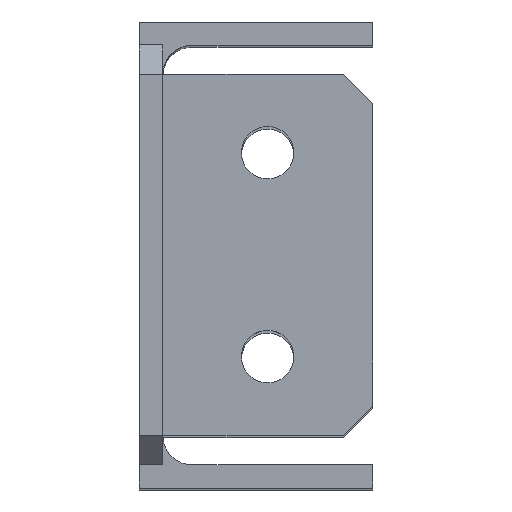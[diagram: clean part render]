
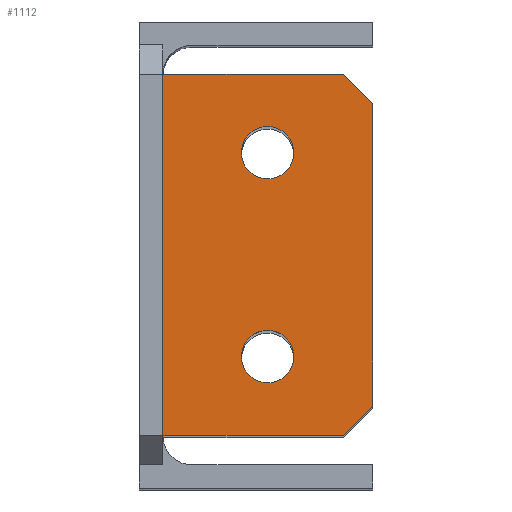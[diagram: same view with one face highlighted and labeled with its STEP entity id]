
A CAD part, top view. The second image highlights one B-rep face of the part: STEP entity #1112.
In plain terms, the highlighted planar face has unit normal (0, 0, 1) as drawn and (1, 0, 0) by its records, which use the part's own axes.
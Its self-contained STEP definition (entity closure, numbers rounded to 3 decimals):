
#3 = DIRECTION ( 'NONE',  ( 0., 0., -1. ) ) ;
#10 = DIRECTION ( 'NONE',  ( 0., 0., 1. ) ) ;
#27 = VERTEX_POINT ( 'NONE', #424 ) ;
#30 = DIRECTION ( 'NONE',  ( 0., -0.707, -0.707 ) ) ;
#47 = CARTESIAN_POINT ( 'NONE',  ( 5., 0., 22. ) ) ;
#54 = FACE_BOUND ( 'NONE', #493, .T. ) ;
#95 = CIRCLE ( 'NONE', #212, 4.5 ) ;
#130 = DIRECTION ( 'NONE',  ( 1., 0., 0. ) ) ;
#136 = CARTESIAN_POINT ( 'NONE',  ( 5., -18., 26. ) ) ;
#137 = EDGE_CURVE ( 'NONE', #889, #182, #654, .T. ) ;
#141 = PLANE ( 'NONE',  #966 ) ;
#146 = DIRECTION ( 'NONE',  ( 0., -1., 0. ) ) ;
#154 = VECTOR ( 'NONE', #770, 1000. ) ;
#167 = VECTOR ( 'NONE', #146, 1000. ) ;
#171 = VERTEX_POINT ( 'NONE', #1036 ) ;
#178 = DIRECTION ( 'NONE',  ( 1., 0., 0. ) ) ;
#182 = VERTEX_POINT ( 'NONE', #1242 ) ;
#195 = DIRECTION ( 'NONE',  ( 0., 0., -1. ) ) ;
#207 = CARTESIAN_POINT ( 'NONE',  ( 5., 0., 13. ) ) ;
#212 = AXIS2_PLACEMENT_3D ( 'NONE', #886, #1081, #195 ) ;
#224 = ORIENTED_EDGE ( 'NONE', *, *, #1139, .T. ) ;
#246 = DIRECTION ( 'NONE',  ( 0., 1., 0. ) ) ;
#258 = VERTEX_POINT ( 'NONE', #667 ) ;
#266 = EDGE_CURVE ( 'NONE', #1038, #171, #95, .T. ) ;
#274 = CIRCLE ( 'NONE', #1060, 4.5 ) ;
#309 = EDGE_CURVE ( 'NONE', #27, #889, #688, .T. ) ;
#318 = DIRECTION ( 'NONE',  ( 0., 0., -1. ) ) ;
#321 = DIRECTION ( 'NONE',  ( 0., 0., -1. ) ) ;
#337 = LINE ( 'NONE', #718, #1198 ) ;
#370 = VERTEX_POINT ( 'NONE', #207 ) ;
#382 = ORIENTED_EDGE ( 'NONE', *, *, #1150, .T. ) ;
#383 = ORIENTED_EDGE ( 'NONE', *, *, #850, .T. ) ;
#389 = ORIENTED_EDGE ( 'NONE', *, *, #798, .F. ) ;
#391 = CARTESIAN_POINT ( 'NONE',  ( 5., -13., -31. ) ) ;
#410 = CARTESIAN_POINT ( 'NONE',  ( 5., 18., 31. ) ) ;
#419 = EDGE_CURVE ( 'NONE', #1173, #370, #497, .T. ) ;
#420 = VECTOR ( 'NONE', #246, 1000. ) ;
#424 = CARTESIAN_POINT ( 'NONE',  ( 5., -18., -26. ) ) ;
#447 = EDGE_LOOP ( 'NONE', ( #224, #567, #797, #824, #382, #383 ) ) ;
#493 = EDGE_LOOP ( 'NONE', ( #389, #581 ) ) ;
#497 = CIRCLE ( 'NONE', #540, 4.5 ) ;
#499 = VECTOR ( 'NONE', #30, 1000. ) ;
#508 = CARTESIAN_POINT ( 'NONE',  ( 5., 18., 31. ) ) ;
#540 = AXIS2_PLACEMENT_3D ( 'NONE', #805, #130, #321 ) ;
#553 = CARTESIAN_POINT ( 'NONE',  ( 5., -18., -31. ) ) ;
#567 = ORIENTED_EDGE ( 'NONE', *, *, #309, .T. ) ;
#581 = ORIENTED_EDGE ( 'NONE', *, *, #419, .F. ) ;
#583 = CARTESIAN_POINT ( 'NONE',  ( 5., 0., -13. ) ) ;
#605 = LINE ( 'NONE', #410, #686 ) ;
#614 = FACE_OUTER_BOUND ( 'NONE', #447, .T. ) ;
#620 = CARTESIAN_POINT ( 'NONE',  ( 5., 0., 17.5 ) ) ;
#625 = DIRECTION ( 'NONE',  ( 0., 0., 1. ) ) ;
#654 = LINE ( 'NONE', #553, #420 ) ;
#667 = CARTESIAN_POINT ( 'NONE',  ( 5., -13., 31. ) ) ;
#686 = VECTOR ( 'NONE', #10, 1000. ) ;
#688 = LINE ( 'NONE', #391, #154 ) ;
#718 = CARTESIAN_POINT ( 'NONE',  ( 5., -18., 31. ) ) ;
#764 = CIRCLE ( 'NONE', #1105, 4.5 ) ;
#769 = EDGE_CURVE ( 'NONE', #171, #1038, #764, .T. ) ;
#770 = DIRECTION ( 'NONE',  ( 0., 0.707, -0.707 ) ) ;
#797 = ORIENTED_EDGE ( 'NONE', *, *, #137, .T. ) ;
#798 = EDGE_CURVE ( 'NONE', #370, #1173, #274, .T. ) ;
#804 = EDGE_CURVE ( 'NONE', #182, #1213, #605, .T. ) ;
#805 = CARTESIAN_POINT ( 'NONE',  ( 5., 0., 17.5 ) ) ;
#807 = EDGE_LOOP ( 'NONE', ( #1166, #1131 ) ) ;
#808 = FACE_BOUND ( 'NONE', #807, .T. ) ;
#824 = ORIENTED_EDGE ( 'NONE', *, *, #804, .T. ) ;
#850 = EDGE_CURVE ( 'NONE', #258, #947, #1189, .T. ) ;
#880 = CARTESIAN_POINT ( 'NONE',  ( 5., 0., -17.5 ) ) ;
#886 = CARTESIAN_POINT ( 'NONE',  ( 5., 0., -17.5 ) ) ;
#889 = VERTEX_POINT ( 'NONE', #913 ) ;
#903 = CARTESIAN_POINT ( 'NONE',  ( 5., -18., 26. ) ) ;
#913 = CARTESIAN_POINT ( 'NONE',  ( 5., -13., -31. ) ) ;
#922 = CARTESIAN_POINT ( 'NONE',  ( 5., -18., 31. ) ) ;
#947 = VERTEX_POINT ( 'NONE', #136 ) ;
#966 = AXIS2_PLACEMENT_3D ( 'NONE', #980, #1005, #625 ) ;
#980 = CARTESIAN_POINT ( 'NONE',  ( 5., 0., 0. ) ) ;
#1005 = DIRECTION ( 'NONE',  ( -1., 0., 0. ) ) ;
#1013 = LINE ( 'NONE', #922, #167 ) ;
#1036 = CARTESIAN_POINT ( 'NONE',  ( 5., 0., -22. ) ) ;
#1038 = VERTEX_POINT ( 'NONE', #583 ) ;
#1060 = AXIS2_PLACEMENT_3D ( 'NONE', #620, #1101, #1210 ) ;
#1081 = DIRECTION ( 'NONE',  ( 1., 0., 0. ) ) ;
#1101 = DIRECTION ( 'NONE',  ( 1., 0., 0. ) ) ;
#1105 = AXIS2_PLACEMENT_3D ( 'NONE', #880, #178, #3 ) ;
#1112 = ADVANCED_FACE ( 'NONE', ( #54, #808, #614 ), #141, .F. ) ;
#1131 = ORIENTED_EDGE ( 'NONE', *, *, #266, .F. ) ;
#1139 = EDGE_CURVE ( 'NONE', #947, #27, #337, .T. ) ;
#1150 = EDGE_CURVE ( 'NONE', #1213, #258, #1013, .T. ) ;
#1166 = ORIENTED_EDGE ( 'NONE', *, *, #769, .F. ) ;
#1173 = VERTEX_POINT ( 'NONE', #47 ) ;
#1189 = LINE ( 'NONE', #903, #499 ) ;
#1198 = VECTOR ( 'NONE', #318, 1000. ) ;
#1210 = DIRECTION ( 'NONE',  ( 0., 0., -1. ) ) ;
#1213 = VERTEX_POINT ( 'NONE', #508 ) ;
#1242 = CARTESIAN_POINT ( 'NONE',  ( 5., 18., -31. ) ) ;
